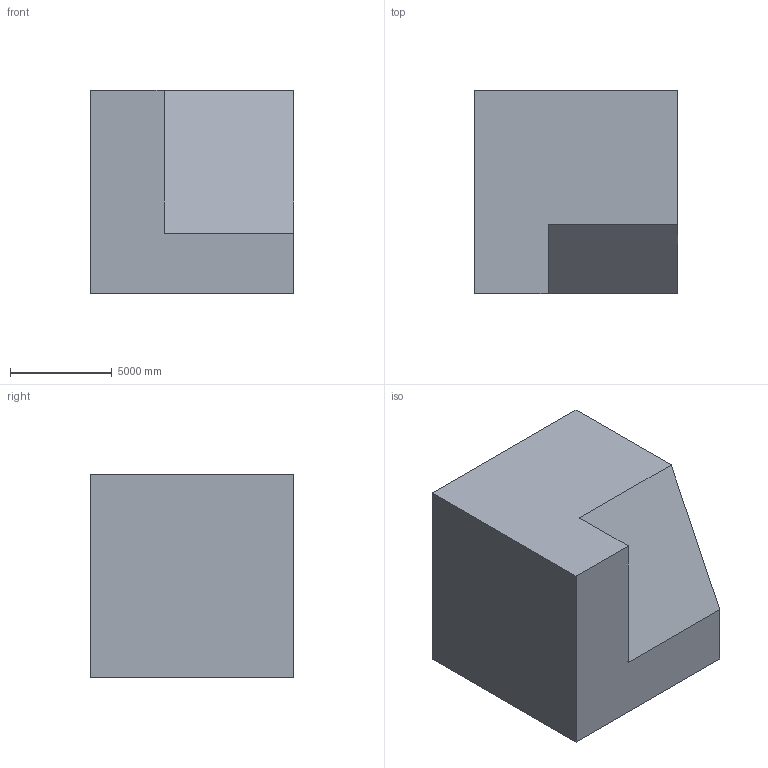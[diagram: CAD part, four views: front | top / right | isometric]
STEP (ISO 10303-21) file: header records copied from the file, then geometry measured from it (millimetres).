
FILE_DESCRIPTION (( 'STEP AP203' ), '1' );
FILE_NAME ('75.STEP', '2022-07-28T13:33:19', ( 'user' ), ( '' ), 'SwSTEP 2.0', 'SolidWorks 2021', '' );
FILE_SCHEMA (( 'CONFIG_CONTROL_DESIGN' ));
Length unit declared in the file: centimetre
Products named in the file (1): 75
Bounding box: 10000 x 10000 x 10000 mm (x, y, z)
Volume: 918484555565.1 mm3; surface area: 595213188.6 mm2
Topology: 1 solids, 1 shells, 15 faces, 36 edges, 24 vertices
Faces by surface type: plane 15
Entity records: 507 total; most frequent: CARTESIAN_POINT 76, ORIENTED_EDGE 72, DIRECTION 68, VECTOR 36, EDGE_CURVE 36, LINE 36, VERTEX_POINT 24, AXIS2_PLACEMENT_3D 16
